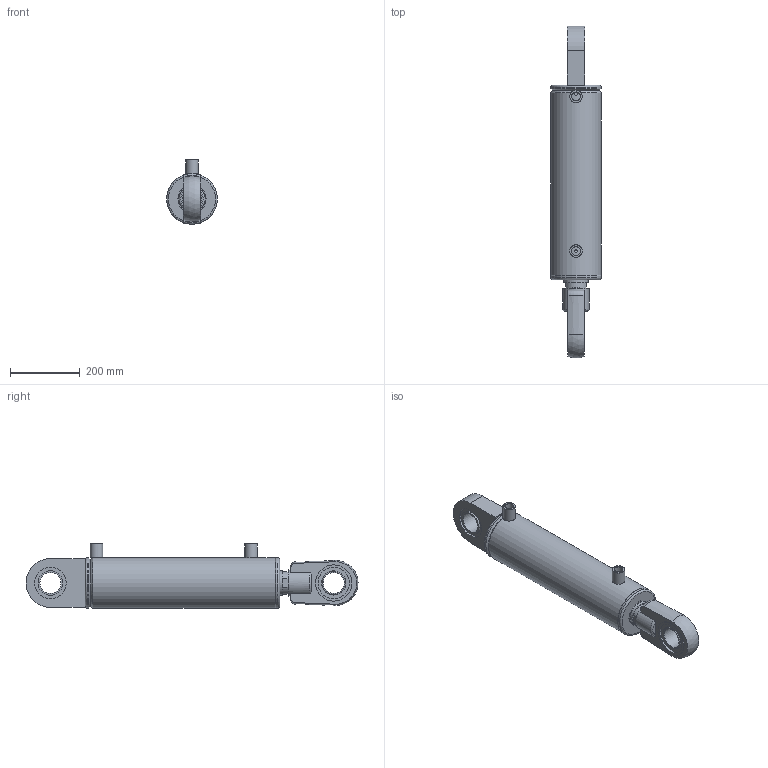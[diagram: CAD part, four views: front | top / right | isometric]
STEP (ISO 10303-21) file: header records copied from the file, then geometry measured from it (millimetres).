
FILE_DESCRIPTION(/* description */ (''),/* implementation_level */ '2;1');
FILE_NAME(/* name */ 'HC_A_125_70_400_AMB_WEB.step',/* time_stamp */ '2023-07-31T17:45:28+03:00',/* author */ (''),/* organization */ (''),/* preprocessor_version */ 'ST-DEVELOPER v20',/* originating_system */ 'Autodesk Translation Framework v12.9.0.99',/* authorisation */ '');
FILE_SCHEMA (('AUTOMOTIVE_DESIGN { 1 0 10303 214 3 1 1 }'));
Length unit declared in the file: millimetre
Products named in the file (17): TRACE_PARTS_125_70_100STROKE; TAK_125_145; Bileşen1; 125_145_HON_BORU; Bileşen1_1; TDK_125_70_M130X2; Bileşen1_2; K0_115X5; K33-070; K06-070; 70_HONLU_MİL; Bileşen1_3; RMV_60; dgihl_60_do; RMK_60; RMK_60_1; Manşon3_4
Assembly tree (17 placements, depth 3):
  TRACE_PARTS_125_70_100STROKE
    TAK_125_145
      Bileşen1
    125_145_HON_BORU
      Bileşen1_1
    TDK_125_70_M130X2
      Bileşen1_2
      K0_115X5
      K33-070
      K06-070
    70_HONLU_MİL
      Bileşen1_3
    RMV_60
      dgihl_60_do
    RMK_60
      RMK_60_1
    Manşon3_4  x2
Bounding box: 145 x 951.33 x 185 mm (x, y, z)
Volume: 5840410.6 mm3; surface area: 845746.7 mm2
Topology: 11 solids, 11 shells, 627 faces, 1601 edges, 1054 vertices
Faces by surface type: bspline 287, plane 213, cylinder 60, cone 48, torus 16, sphere 3
Full cylindrical faces by diameter (mm): 8 x2, 24.5 x2, 35 x1, 36 x2, 49.822 x1, 56.376 x1, 57.85 x1, 60 x3, 70 x5, 70.948 x2, 71.107 x1, 73.2 x1, 75 x1, 79.408 x1, 80 x1, 80.58 x1, 80.6 x1, 90 x4, 104 x2, 117 x1, 125 x2, 126 x3, 127.5 x1, 128.023 x1, 129.822 x1, 145 x3
Entity records: 28561 total; most frequent: CARTESIAN_POINT 14833, ORIENTED_EDGE 3168, DIRECTION 1985, EDGE_CURVE 1584, VERTEX_POINT 1044, LINE 713, VECTOR 713, EDGE_LOOP 698
